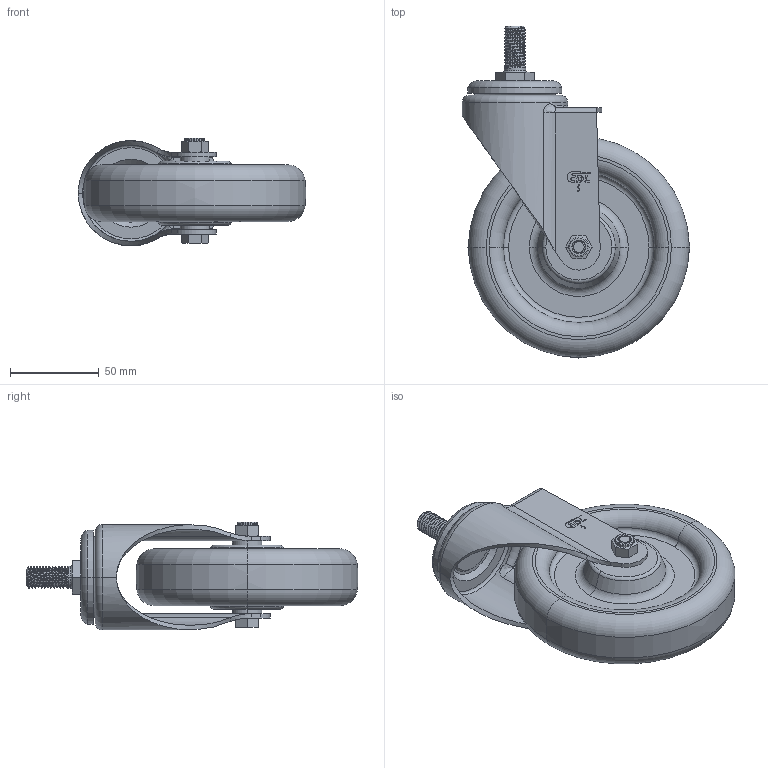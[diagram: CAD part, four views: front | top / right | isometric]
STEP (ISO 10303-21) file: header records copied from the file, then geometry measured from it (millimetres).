
FILE_DESCRIPTION((''),'2;1');
FILE_NAME('S54735_ASM','2021-08-10T',('lenovo'),(''),'PRO/ENGINEER BY PARAMETRIC TECHNOLOGY CORPORATION, 2010280','PRO/ENGINEER BY PARAMETRIC TECHNOLOGY CORPORATION, 2010280','');
FILE_SCHEMA(('CONFIG_CONTROL_DESIGN'));
Length unit declared in the file: millimetre
Products named in the file (6): S545-11; S540-23; 505-986; S540-33; S540-34; S54735_ASM
Assembly tree (5 placements, depth 2):
  S54735_ASM
    S545-11
    S540-23
    505-986
    S540-33
    S540-34
Bounding box: 128.1 x 186.95 x 60.65 mm (x, y, z)
Volume: 344677.1 mm3; surface area: 75370.9 mm2
Topology: 5 solids, 5 shells, 300 faces, 725 edges, 450 vertices
Faces by surface type: plane 134, cylinder 69, cone 36, torus 36, bspline 25
Entity records: 13691 total; most frequent: CARTESIAN_POINT 6681, ORIENTED_EDGE 1450, DIRECTION 1399, EDGE_CURVE 725, AXIS2_PLACEMENT_3D 509, VERTEX_POINT 450, VECTOR 381, LINE 381
